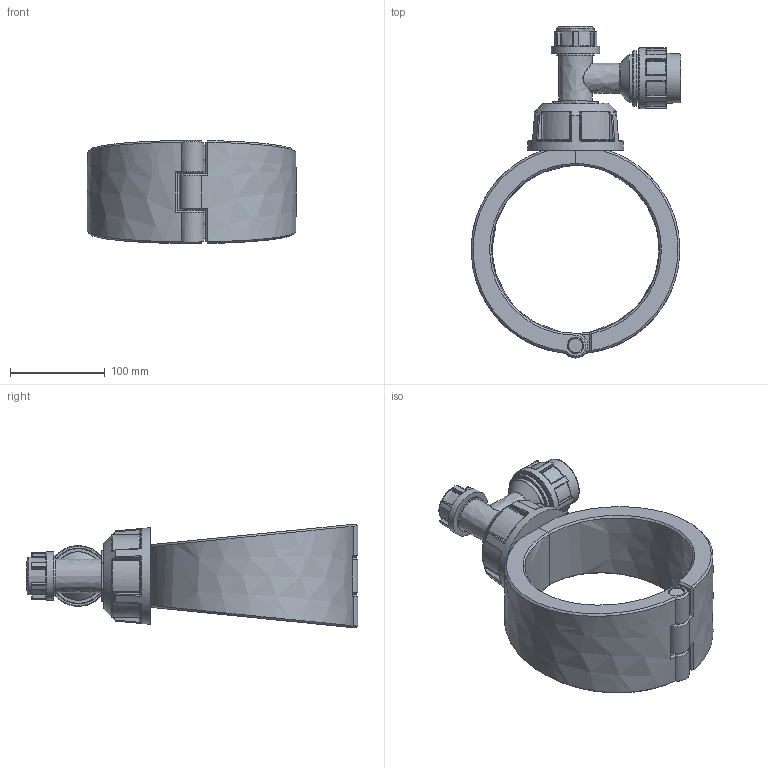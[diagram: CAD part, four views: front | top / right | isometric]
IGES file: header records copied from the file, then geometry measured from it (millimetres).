
Global section: file name: 1631061220320A; native system: Autodesk Inventor 2019; preprocessor: unknown; author: comp2; date: 20220203.115913; units: millimetre
Bounding box: 221 x 349.99 x 109.6 mm (x, y, z)
Volume: 1714882.7 mm3; surface area: 213449.1 mm2
Topology: 4 solids, 4 shells, 519 faces, 1253 edges, 754 vertices
Faces by surface type: bspline 519
